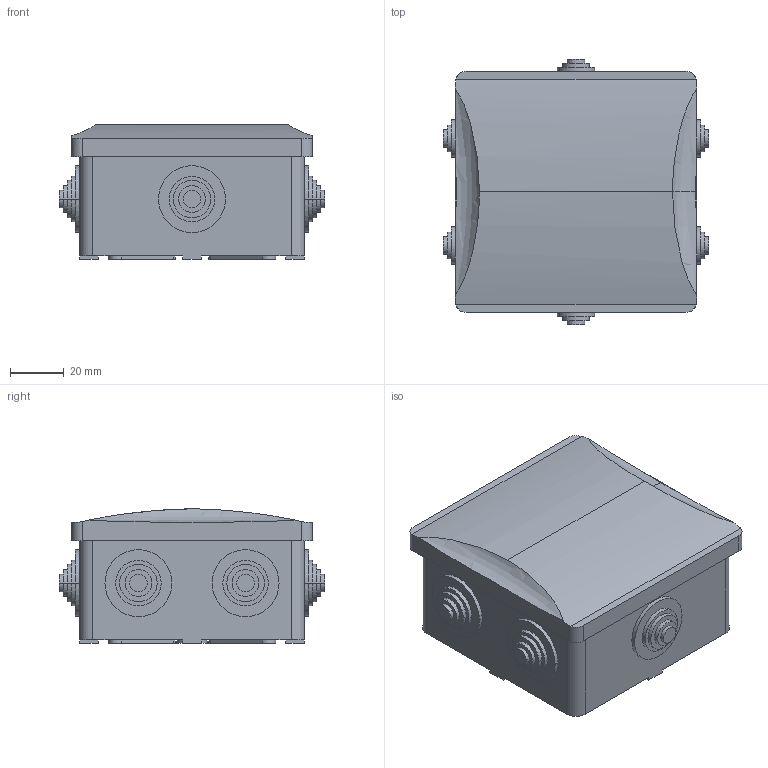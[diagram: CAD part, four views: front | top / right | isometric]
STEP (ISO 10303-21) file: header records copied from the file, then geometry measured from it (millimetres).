
FILE_DESCRIPTION (( 'STEP AP203' ), '1' );
FILE_NAME ('7661.STEP', '2020-07-09T12:00:29', ( '' ), ( '' ), 'SwSTEP 2.0', 'SolidWorks 2019', '' );
FILE_SCHEMA (( 'CONFIG_CONTROL_DESIGN' ));
Length unit declared in the file: millimetre
Products named in the file (4): 7661; Podstawa S_BOX_S-BOX 036SK; Pokrywa S_BOX_036SK; D£AWIK_sr_S-BOX 036 sk dˆawik
Assembly tree (8 placements, depth 2):
  7661
    Podstawa S_BOX_S-BOX 036SK
    D£AWIK_sr_S-BOX 036 sk dˆawik  x6
    Pokrywa S_BOX_036SK
Bounding box: 99 x 99 x 50.19 mm (x, y, z)
Volume: 63874.5 mm3; surface area: 79961.2 mm2
Topology: 8 solids, 8 shells, 440 faces, 964 edges, 634 vertices
Faces by surface type: cylinder 228, plane 174, cone 24, torus 14
Entity records: 7806 total; most frequent: CARTESIAN_POINT 1430, DIRECTION 1306, ORIENTED_EDGE 1148, EDGE_CURVE 574, AXIS2_PLACEMENT_3D 504, VERTEX_POINT 374, LINE 298, VECTOR 298
